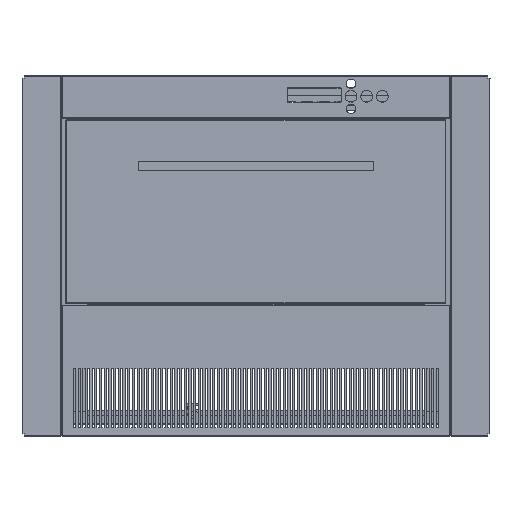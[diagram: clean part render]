
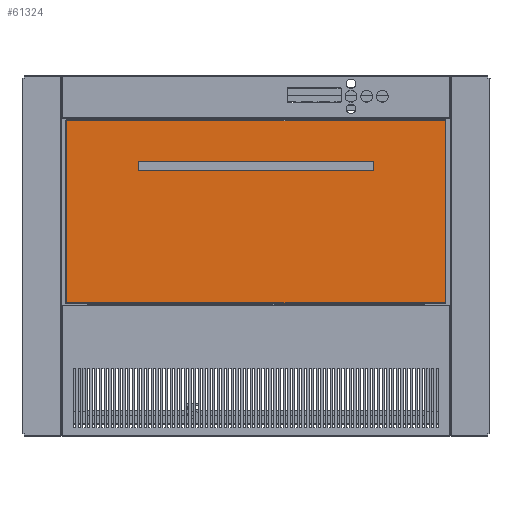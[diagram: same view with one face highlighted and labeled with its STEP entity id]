
A CAD part, front view. The second image highlights one B-rep face of the part: STEP entity #61324.
In plain terms, the highlighted planar face has unit normal (0, -1, 0.005) as drawn and (0, -1, 0) by its records, which use the part's own axes.
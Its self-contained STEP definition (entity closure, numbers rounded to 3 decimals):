
#593=CIRCLE('',#64758,2.5);
#594=CIRCLE('',#64759,2.5);
#1919=ORIENTED_EDGE('',*,*,#18943,.F.);
#1920=ORIENTED_EDGE('',*,*,#18944,.F.);
#1921=ORIENTED_EDGE('',*,*,#18945,.F.);
#1922=ORIENTED_EDGE('',*,*,#18946,.T.);
#1923=ORIENTED_EDGE('',*,*,#18947,.T.);
#1924=ORIENTED_EDGE('',*,*,#18948,.T.);
#18943=EDGE_CURVE('',#27537,#27537,#593,.F.);
#18944=EDGE_CURVE('',#27538,#27538,#594,.F.);
#18945=EDGE_CURVE('',#27528,#27539,#33355,.T.);
#18946=EDGE_CURVE('',#27528,#27534,#33356,.T.);
#18947=EDGE_CURVE('',#27534,#27525,#33357,.T.);
#18948=EDGE_CURVE('',#27525,#27539,#33358,.T.);
#27525=VERTEX_POINT('',#84316);
#27528=VERTEX_POINT('',#84323);
#27534=VERTEX_POINT('',#84336);
#27537=VERTEX_POINT('',#84344);
#27538=VERTEX_POINT('',#84346);
#27539=VERTEX_POINT('',#84348);
#33355=LINE('',#84347,#41523);
#33356=LINE('',#84349,#41524);
#33357=LINE('',#84350,#41525);
#33358=LINE('',#84351,#41526);
#41523=VECTOR('',#69004,1000.);
#41524=VECTOR('',#69005,1000.);
#41525=VECTOR('',#69006,1000.);
#41526=VECTOR('',#69007,1000.);
#49646=EDGE_LOOP('',(#1919));
#49647=EDGE_LOOP('',(#1920));
#49648=EDGE_LOOP('',(#1921,#1922,#1923,#1924));
#54160=FACE_BOUND('',#49646,.T.);
#54161=FACE_BOUND('',#49647,.T.);
#54162=FACE_BOUND('',#49648,.T.);
#58497=PLANE('',#64757);
#61324=ADVANCED_FACE('',(#54160,#54161,#54162),#58497,.F.);
#64757=AXIS2_PLACEMENT_3D('',#84342,#68998,#68999);
#64758=AXIS2_PLACEMENT_3D('',#84343,#69000,#69001);
#64759=AXIS2_PLACEMENT_3D('',#84345,#69002,#69003);
#68998=DIRECTION('',(0.,1.,0.));
#68999=DIRECTION('',(0.,0.,1.));
#69000=DIRECTION('',(0.,1.,0.));
#69001=DIRECTION('',(0.,0.,1.));
#69002=DIRECTION('',(0.,1.,0.));
#69003=DIRECTION('',(0.,0.,1.));
#69004=DIRECTION('',(1.,0.,0.));
#69005=DIRECTION('',(0.,0.,-1.));
#69006=DIRECTION('',(1.,0.,0.));
#69007=DIRECTION('',(0.,0.,1.));
#84316=CARTESIAN_POINT('',(240.998,-1.,-115.898));
#84323=CARTESIAN_POINT('',(-240.998,-1.,115.898));
#84336=CARTESIAN_POINT('',(-240.998,-1.,-115.898));
#84342=CARTESIAN_POINT('',(-242.,-1.,-115.9));
#84343=CARTESIAN_POINT('',(-144.,-1.,58.));
#84344=CARTESIAN_POINT('',(-144.,-1.,60.5));
#84345=CARTESIAN_POINT('',(144.,-1.,58.));
#84346=CARTESIAN_POINT('',(144.,-1.,60.5));
#84347=CARTESIAN_POINT('',(-242.,-1.,115.898));
#84348=CARTESIAN_POINT('',(240.998,-1.,115.898));
#84349=CARTESIAN_POINT('',(-240.998,-1.,115.898));
#84350=CARTESIAN_POINT('',(-242.,-1.,-115.898));
#84351=CARTESIAN_POINT('',(240.998,-1.,-115.898));
